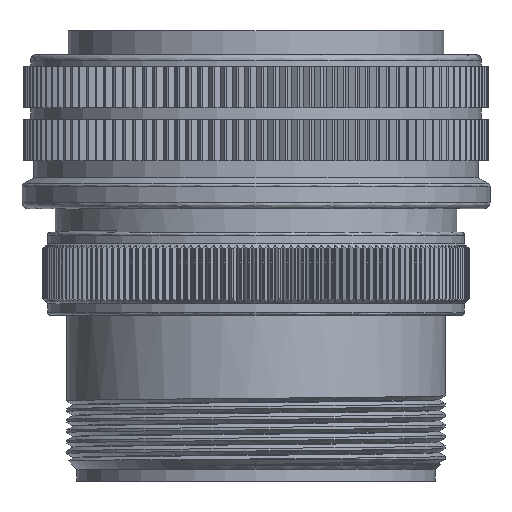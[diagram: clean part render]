
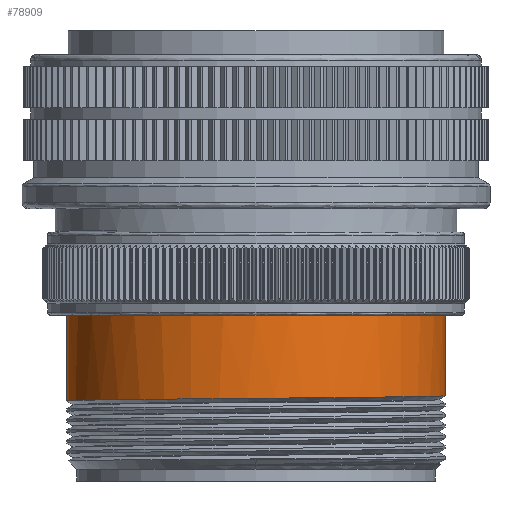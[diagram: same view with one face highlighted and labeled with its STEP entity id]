
A CAD part, front view. The second image highlights one B-rep face of the part: STEP entity #78909.
In plain terms, the highlighted cylindrical face has radius 25.355 mm (diameter 50.71 mm), a partial arc.
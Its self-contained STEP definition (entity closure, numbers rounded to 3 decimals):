
#1359 = VERTEX_POINT ( 'NONE', #42447 ) ;
#4417 = LINE ( 'NONE', #33502, #101111 ) ;
#4610 = CARTESIAN_POINT ( 'NONE',  ( -25.355, 0., -49.549 ) ) ;
#5296 = ORIENTED_EDGE ( 'NONE', *, *, #143526, .T. ) ;
#7652 = DIRECTION ( 'NONE',  ( 0., 0., 1. ) ) ;
#14303 = VERTEX_POINT ( 'NONE', #72071 ) ;
#28021 = CARTESIAN_POINT ( 'NONE',  ( -14.639, -25.355, -49.313 ) ) ;
#33502 = CARTESIAN_POINT ( 'NONE',  ( 25.355, 0., -26.97 ) ) ;
#39771 = CARTESIAN_POINT ( 'NONE',  ( 14.639, -25.355, -49.078 ) ) ;
#41439 = VERTEX_POINT ( 'NONE', #101974 ) ;
#42447 = CARTESIAN_POINT ( 'NONE',  ( -25.355, 0., -38.08 ) ) ;
#51045 = CARTESIAN_POINT ( 'NONE',  ( -25.355, -6.794, -49.485 ) ) ;
#51532 = CARTESIAN_POINT ( 'NONE',  ( 25.355, -6.794, -48.906 ) ) ;
#52501 = EDGE_CURVE ( 'NONE', #41439, #1359, #52950, .T. ) ;
#52950 = LINE ( 'NONE', #138505, #83955 ) ;
#53670 = EDGE_CURVE ( 'NONE', #41439, #14303, #122367, .T. ) ;
#56341 = DIRECTION ( 'NONE',  ( 0., 0., -1. ) ) ;
#60339 = CYLINDRICAL_SURFACE ( 'NONE', #145091, 25.355 ) ;
#63722 = ORIENTED_EDGE ( 'NONE', *, *, #53670, .T. ) ;
#65769 = CARTESIAN_POINT ( 'NONE',  ( 0., 0., -26.97 ) ) ;
#72071 = CARTESIAN_POINT ( 'NONE',  ( 25.355, 0., -48.843 ) ) ;
#78909 = ADVANCED_FACE ( 'NONE', ( #98615 ), #60339, .T. ) ;
#81871 = CIRCLE ( 'NONE', #126525, 25.355 ) ;
#83955 = VECTOR ( 'NONE', #119163, 1000. ) ;
#89206 = DIRECTION ( 'NONE',  ( 1., 0., 0. ) ) ;
#97872 = CARTESIAN_POINT ( 'NONE',  ( -21.958, -12.677, -49.431 ) ) ;
#98615 = FACE_OUTER_BOUND ( 'NONE', #105762, .T. ) ;
#101111 = VECTOR ( 'NONE', #115198, 1000. ) ;
#101974 = CARTESIAN_POINT ( 'NONE',  ( -25.355, 0., -49.549 ) ) ;
#103037 = EDGE_CURVE ( 'NONE', #107304, #1359, #81871, .T. ) ;
#105762 = EDGE_LOOP ( 'NONE', ( #108462, #63722, #5296, #144093 ) ) ;
#107304 = VERTEX_POINT ( 'NONE', #147743 ) ;
#108462 = ORIENTED_EDGE ( 'NONE', *, *, #52501, .F. ) ;
#109678 = CARTESIAN_POINT ( 'NONE',  ( 0., -25.355, -49.196 ) ) ;
#115198 = DIRECTION ( 'NONE',  ( 0., 0., 1. ) ) ;
#119163 = DIRECTION ( 'NONE',  ( 0., 0., 1. ) ) ;
#121452 = CARTESIAN_POINT ( 'NONE',  ( 21.958, -12.678, -48.961 ) ) ;
#122367 =( BOUNDED_CURVE ( )  B_SPLINE_CURVE ( 2, ( #4610, #51045, #97872, #28021, #109678, #39771, #121452, #51532, #133268 ),
 .UNSPECIFIED., .F., .F. ) 
 B_SPLINE_CURVE_WITH_KNOTS ( ( 3, 2, 2, 2, 3 ),
 ( 0.888, 0.901, 0.928, 0.955, 0.968 ),
 .UNSPECIFIED. ) 
 CURVE ( )  GEOMETRIC_REPRESENTATION_ITEM ( )  RATIONAL_B_SPLINE_CURVE ( ( 0.933, 0.933, 1., 0.866, 1., 0.866, 1., 0.933, 0.933 ) ) 
 REPRESENTATION_ITEM ( '' )  );
#126313 = CARTESIAN_POINT ( 'NONE',  ( 0., 0., -38.08 ) ) ;
#126525 = AXIS2_PLACEMENT_3D ( 'NONE', #126313, #56341, #138094 ) ;
#133268 = CARTESIAN_POINT ( 'NONE',  ( 25.355, 0., -48.843 ) ) ;
#138094 = DIRECTION ( 'NONE',  ( 1., 0., 0. ) ) ;
#138505 = CARTESIAN_POINT ( 'NONE',  ( -25.355, 0., -26.97 ) ) ;
#143526 = EDGE_CURVE ( 'NONE', #14303, #107304, #4417, .T. ) ;
#144093 = ORIENTED_EDGE ( 'NONE', *, *, #103037, .T. ) ;
#145091 = AXIS2_PLACEMENT_3D ( 'NONE', #65769, #7652, #89206 ) ;
#147743 = CARTESIAN_POINT ( 'NONE',  ( 25.355, 0., -38.08 ) ) ;
